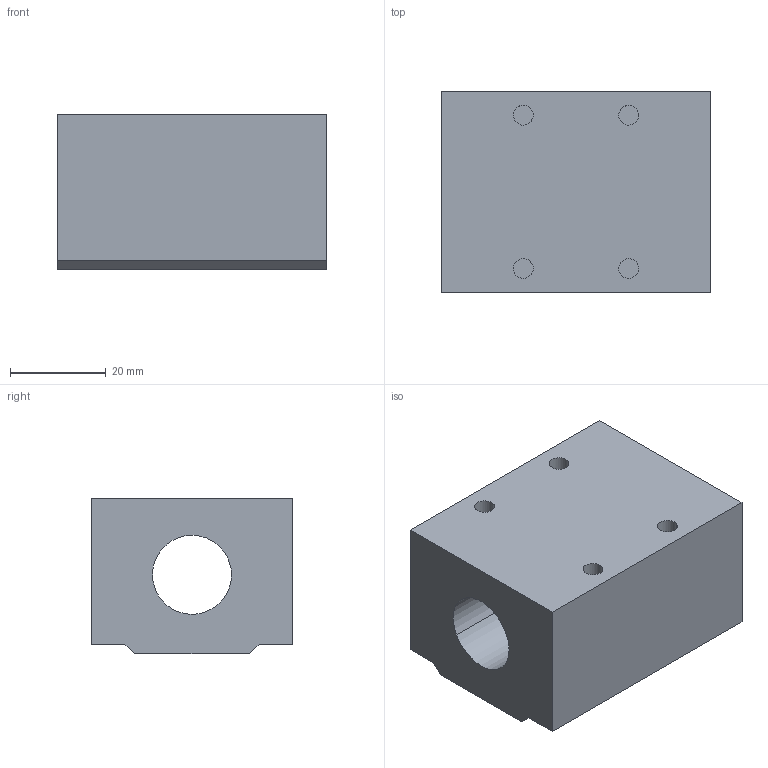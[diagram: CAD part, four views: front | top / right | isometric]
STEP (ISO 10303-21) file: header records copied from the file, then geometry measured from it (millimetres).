
FILE_DESCRIPTION(('CATIA V5 STEP Exchange'),'2;1');
FILE_NAME('C:\Users\aa\Documents\이댈\볼스크류\BNT\링크X\BNTR1605.stp','2018-11-16T01:53:40+00:00',('none'),('none'),'CATIA Version 5 Release 20 SP 7 (IN-10)','CATIA V5 STEP AP203','none');
FILE_SCHEMA(('CONFIG_CONTROL_DESIGN'));
Length unit declared in the file: millimetre
Products named in the file (1): Part1
Bounding box: 56 x 42 x 32.5 mm (x, y, z)
Volume: 62054.4 mm3; surface area: 13924 mm2
Topology: 1 solids, 1 shells, 27 faces, 60 edges, 40 vertices
Faces by surface type: plane 15, cylinder 12
Entity records: 730 total; most frequent: ORIENTED_EDGE 120, CARTESIAN_POINT 118, DIRECTION 94, EDGE_CURVE 60, AXIS2_PLACEMENT_3D 42, VERTEX_POINT 40, VECTOR 36, LINE 36
